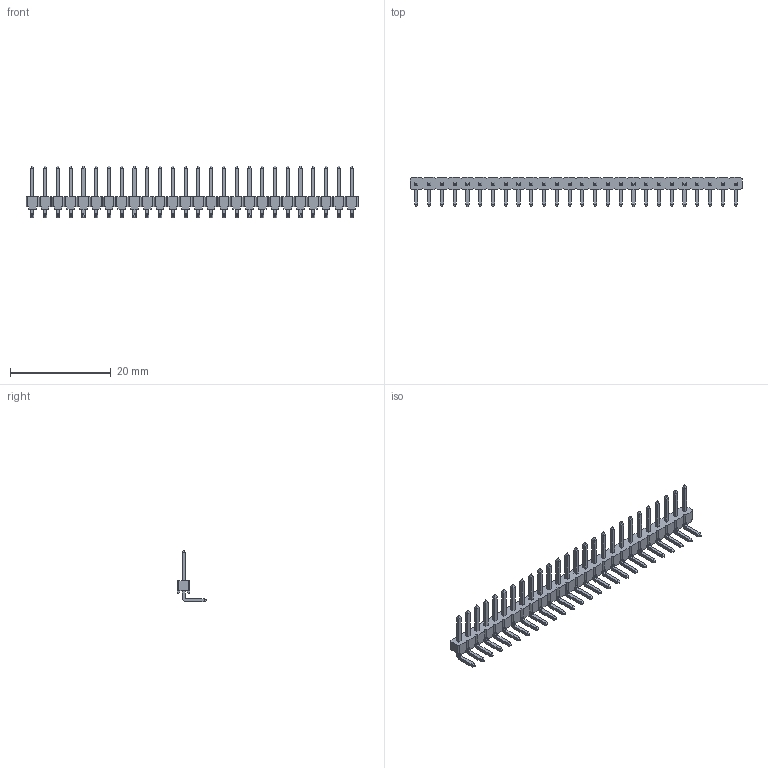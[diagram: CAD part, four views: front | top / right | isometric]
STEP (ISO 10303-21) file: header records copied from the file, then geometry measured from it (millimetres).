
FILE_DESCRIPTION(/* description */ (''),/* implementation_level */ '2;1');
FILE_NAME(/* name */ '961126-5604-XX',/* time_stamp */ '2007-06-18T13:47:58+02:00',/* author */ (''),/* organization */ (''),/* preprocessor_version */ 'ST-DEVELOPER v9',/* originating_system */ 'UGS - NX 4.0',/* authorisation */ '');
FILE_SCHEMA (('AUTOMOTIVE_DESIGN { 1 0 10303 214 1 1 1 1 }'));
Length unit declared in the file: millimetre
Products named in the file (1): 961126-5604-XX
Bounding box: 66.04 x 5.8 x 10.32 mm (x, y, z)
Volume: 463.9 mm3; surface area: 1477.1 mm2
Topology: 1 solids, 1 shells, 994 faces, 2612 edges, 1672 vertices
Faces by surface type: plane 942, cylinder 52
Entity records: 29820 total; most frequent: CARTESIAN_POINT 5279, ORIENTED_EDGE 5224, DIRECTION 4706, EDGE_CURVE 2612, LINE 2508, VECTOR 2508, VERTEX_POINT 1672, AXIS2_PLACEMENT_3D 1099
